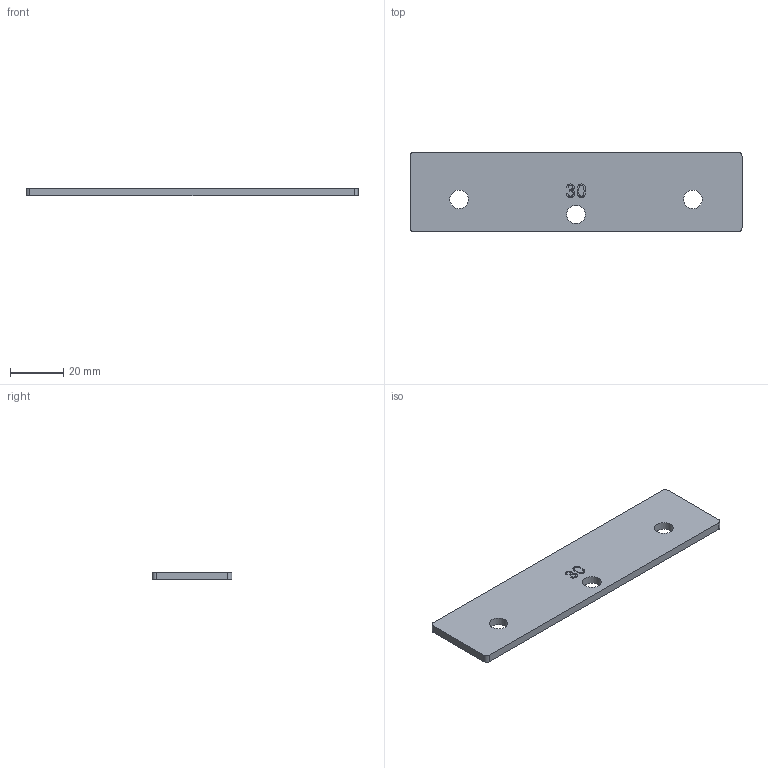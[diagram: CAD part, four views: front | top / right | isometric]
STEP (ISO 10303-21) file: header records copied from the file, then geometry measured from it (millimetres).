
FILE_DESCRIPTION(('STEP AP242'),'1');
FILE_NAME('r Allmatic und Garant.stp','2024-06-17T13:15:04',('WM'),('Schleif-Tec'),'Spatial InterOp 3D','CimatronE 16.0',' ');
FILE_SCHEMA(('AP242_MANAGED_MODEL_BASED_3D_ENGINEERING_MIM_LF'));
Length unit declared in the file: millimetre
Products named in the file (1): 13
Bounding box: 125 x 30 x 3 mm (x, y, z)
Volume: 10895 mm3; surface area: 8394.4 mm2
Topology: 1 solids, 1 shells, 25 faces, 63 edges, 43 vertices
Faces by surface type: plane 12, cylinder 7, extrusion 6
Full cylindrical faces by diameter (mm): 7 x3
Entity records: 1378 total; most frequent: CARTESIAN_POINT 576, ORIENTED_EDGE 114, DIRECTION 105, EDGE_CURVE 57, VERTEX_POINT 40, EDGE_LOOP 37, VECTOR 37, AXIS2_PLACEMENT_3D 34
